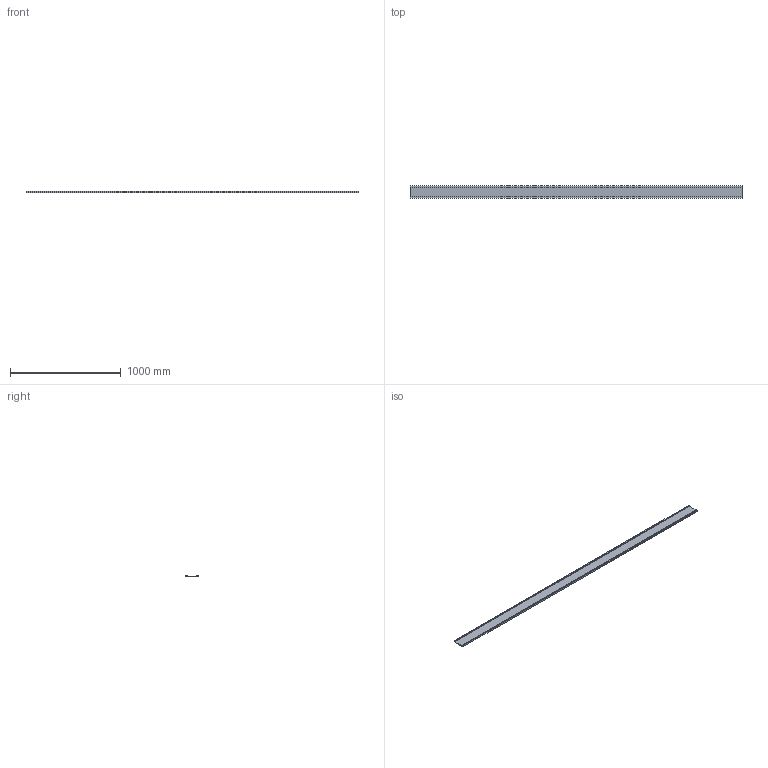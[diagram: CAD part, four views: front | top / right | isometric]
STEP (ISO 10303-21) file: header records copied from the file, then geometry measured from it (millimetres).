
FILE_DESCRIPTION (( 'STEP AP214' ), '1' );
FILE_NAME ('FABER - FD7 10.step', '2017-04-06T07:45:47', ( '' ), ( '' ), 'SwSTEP 2.0', 'SolidWorks 2016', '' );
FILE_SCHEMA (( 'AUTOMOTIVE_DESIGN' ));
Length unit declared in the file: millimetre
Products named in the file (1): FABER - FD7 10
Bounding box: 3000 x 110 x 15 mm (x, y, z)
Volume: 2035500 mm3; surface area: 877357 mm2
Topology: 1 solids, 1 shells, 14 faces, 36 edges, 24 vertices
Faces by surface type: plane 14
Entity records: 454 total; most frequent: CARTESIAN_POINT 75, ORIENTED_EDGE 72, DIRECTION 66, LINE 36, VECTOR 36, EDGE_CURVE 36, VERTEX_POINT 24, AXIS2_PLACEMENT_3D 15
